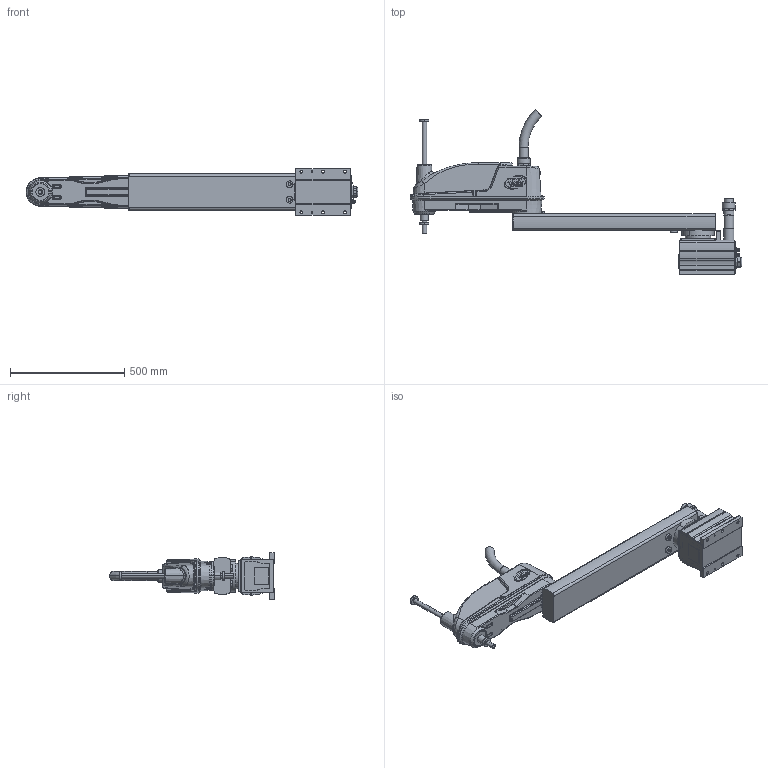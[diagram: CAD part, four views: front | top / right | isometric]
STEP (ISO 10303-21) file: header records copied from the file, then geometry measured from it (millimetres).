
FILE_DESCRIPTION((''),'2;1');
FILE_NAME('THL1200_3D_ASM','2024-06-21T15:40:30',('15575'),(''),'CREO PARAMETRIC BY PTC INC, 2020454','CREO PARAMETRIC BY PTC INC, 2020454','');
FILE_SCHEMA(('AUTOMOTIVE_DESIGN { 1 0 10303 214 1 1 1 1 }'));
Products named in the file (5): THL1200_BASE; THL1200_1STARM; THL1200_2ND_ARM; THL1200_BALL_SCREW; THL1200_3D_ASM
Assembly tree (4 placements, depth 2):
  THL1200_3D_ASM
    THL1200_BASE
    THL1200_1STARM
    THL1200_2ND_ARM
    THL1200_BALL_SCREW
Bounding box: 1454.14 x 721.98 x 206 mm (x, y, z)
Volume: 16439600.6 mm3; surface area: 1788312.9 mm2
Topology: 4 solids, 25 shells, 1782 faces, 4211 edges, 2583 vertices
Faces by surface type: plane 637, cylinder 560, cone 237, bspline 202, torus 106, extrusion 30, sphere 8, revolution 2
Entity records: 77575 total; most frequent: CARTESIAN_POINT 27404, ORIENTED_EDGE 8414, DIRECTION 7991, EDGE_CURVE 4207, AXIS2_PLACEMENT_3D 3077, VERTEX_POINT 2583, EDGE_LOOP 1950, VECTOR 1835
